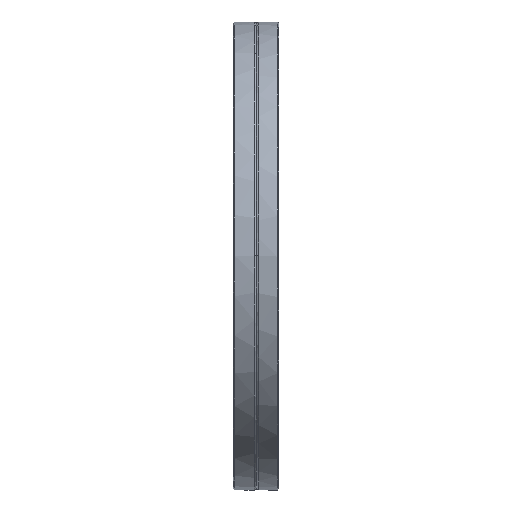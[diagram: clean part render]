
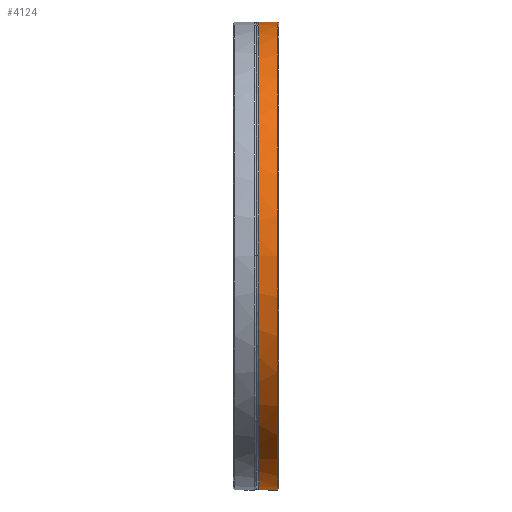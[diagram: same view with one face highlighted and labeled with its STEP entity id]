
A CAD part, top view. The second image highlights one B-rep face of the part: STEP entity #4124.
In plain terms, the highlighted cylindrical face has radius 126.5 mm (diameter 253 mm), a partial arc.
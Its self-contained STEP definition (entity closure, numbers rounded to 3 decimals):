
#4011=CARTESIAN_POINT('',(23.9,-126.5,0.));
#4012=VERTEX_POINT('',#4011);
#4051=CARTESIAN_POINT('',(12.25,0.,0.0));
#4052=DIRECTION('',(1.0,0.,0.0));
#4053=DIRECTION('',(0.0,1.0,0.0));
#4054=AXIS2_PLACEMENT_3D('',#4051,#4052,#4053);
#4055=CYLINDRICAL_SURFACE('',#4054,126.5);
#4056=CARTESIAN_POINT('',(13.699,126.5,0.));
#4057=VERTEX_POINT('',#4056);
#4058=CARTESIAN_POINT('',(23.7,126.5,0.));
#4059=VERTEX_POINT('',#4058);
#4060=CARTESIAN_POINT('',(13.699,126.5,0.));
#4061=DIRECTION('',(1.0,0.0,0.0));
#4062=VECTOR('',#4061,10.001);
#4063=LINE('',#4060,#4062);
#4064=EDGE_CURVE('',#4057,#4059,#4063,.T.);
#4065=ORIENTED_EDGE('',*,*,#4064,.F.);
#4066=CARTESIAN_POINT('',(13.7,0.,126.5));
#4067=VERTEX_POINT('',#4066);
#4068=CARTESIAN_POINT('',(13.699,126.5,0.));
#4069=CARTESIAN_POINT('',(13.699,126.5,16.472));
#4070=CARTESIAN_POINT('',(13.699,123.282,32.787));
#4071=CARTESIAN_POINT('',(13.699,110.775,63.265));
#4072=CARTESIAN_POINT('',(13.699,101.604,77.136));
#4073=CARTESIAN_POINT('',(13.7,78.463,100.584));
#4074=CARTESIAN_POINT('',(13.7,64.712,109.936));
#4075=CARTESIAN_POINT('',(13.7,34.401,122.842));
#4076=CARTESIAN_POINT('',(13.7,18.13,126.273));
#4077=CARTESIAN_POINT('',(13.7,1.106,126.496));
#4078=CARTESIAN_POINT('',(13.7,0.553,126.5));
#4079=CARTESIAN_POINT('',(13.7,0.,126.5));
#4080=B_SPLINE_CURVE_WITH_KNOTS('',3,(#4068,#4069,#4070,#4071,#4072,#4073,#4074,#4075,#4076,#4077,#4078,#4079),.UNSPECIFIED.,.F.,.U.,(4,2,2,2,2,4),(0.0,4.942,9.883,14.825,19.767,19.933),.UNSPECIFIED.);
#4081=EDGE_CURVE('',#4057,#4067,#4080,.T.);
#4082=ORIENTED_EDGE('',*,*,#4081,.T.);
#4083=CARTESIAN_POINT('',(13.701,-126.5,0.));
#4084=VERTEX_POINT('',#4083);
#4085=CARTESIAN_POINT('',(13.7,0.,126.5));
#4086=CARTESIAN_POINT('',(13.7,-15.909,126.5));
#4087=CARTESIAN_POINT('',(13.7,-31.681,123.499));
#4088=CARTESIAN_POINT('',(13.7,-61.806,111.596));
#4089=CARTESIAN_POINT('',(13.7,-75.797,102.608));
#4090=CARTESIAN_POINT('',(13.701,-99.546,79.776));
#4091=CARTESIAN_POINT('',(13.701,-109.077,66.15));
#4092=CARTESIAN_POINT('',(13.701,-122.38,36.011));
#4093=CARTESIAN_POINT('',(13.701,-126.025,19.786));
#4094=CARTESIAN_POINT('',(13.701,-126.486,2.213));
#4095=CARTESIAN_POINT('',(13.701,-126.5,1.106));
#4096=CARTESIAN_POINT('',(13.701,-126.5,0.));
#4097=B_SPLINE_CURVE_WITH_KNOTS('',3,(#4085,#4086,#4087,#4088,#4089,#4090,#4091,#4092,#4093,#4094,#4095,#4096),.UNSPECIFIED.,.F.,.U.,(4,2,2,2,2,4),(19.933,24.708,29.65,34.592,39.533,39.865),.UNSPECIFIED.);
#4098=EDGE_CURVE('',#4067,#4084,#4097,.T.);
#4099=ORIENTED_EDGE('',*,*,#4098,.T.);
#4100=CARTESIAN_POINT('',(23.9,-126.5,0.));
#4101=DIRECTION('',(-1.0,0.0,0.0));
#4102=VECTOR('',#4101,10.199);
#4103=LINE('',#4100,#4102);
#4104=EDGE_CURVE('',#4012,#4084,#4103,.T.);
#4105=ORIENTED_EDGE('',*,*,#4104,.F.);
#4106=CARTESIAN_POINT('',(23.9,126.495,1.077));
#4107=VERTEX_POINT('',#4106);
#4108=CARTESIAN_POINT('',(23.9,0.,0.0));
#4109=DIRECTION('',(1.0,0.0,0.0));
#4110=DIRECTION('',(0.0,-1.0,0.0));
#4111=AXIS2_PLACEMENT_3D('',#4108,#4109,#4110);
#4112=CIRCLE('',#4111,126.5);
#4113=EDGE_CURVE('',#4107,#4012,#4112,.T.);
#4114=ORIENTED_EDGE('',*,*,#4113,.F.);
#4115=CARTESIAN_POINT('',(23.9,126.495,1.077));
#4116=CARTESIAN_POINT('',(23.766,126.498,0.728));
#4117=CARTESIAN_POINT('',(23.7,126.5,0.353));
#4118=CARTESIAN_POINT('',(23.7,126.5,0.));
#4119=B_SPLINE_CURVE_WITH_KNOTS('',3,(#4115,#4116,#4117,#4118),.UNSPECIFIED.,.F.,.U.,(4,4),(1.25,1.356),.UNSPECIFIED.);
#4120=EDGE_CURVE('',#4107,#4059,#4119,.T.);
#4121=ORIENTED_EDGE('',*,*,#4120,.T.);
#4122=EDGE_LOOP('',(#4065,#4082,#4099,#4105,#4114,#4121));
#4123=FACE_OUTER_BOUND('',#4122,.T.);
#4124=ADVANCED_FACE('',(#4123),#4055,.T.);
